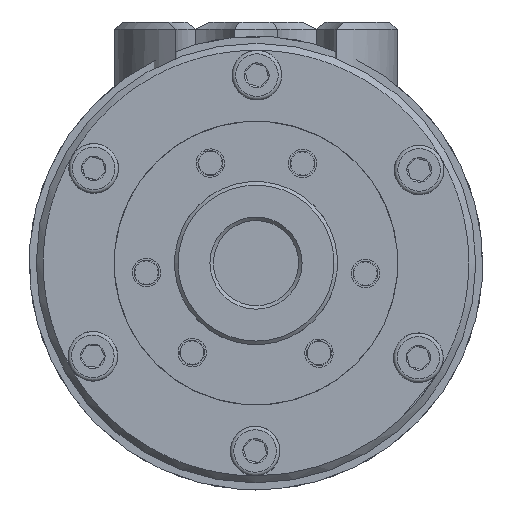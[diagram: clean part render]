
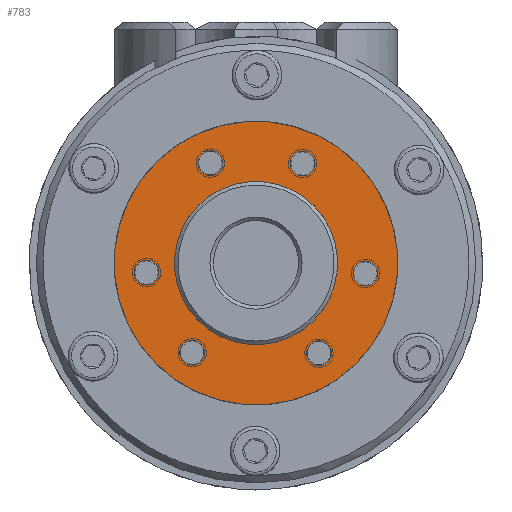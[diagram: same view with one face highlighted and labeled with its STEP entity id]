
A CAD part, left-side view. The second image highlights one B-rep face of the part: STEP entity #783.
In plain terms, the highlighted planar face has unit normal (-1, 0, 0) as drawn and (0, -1, 0) by its records, which use the part's own axes.
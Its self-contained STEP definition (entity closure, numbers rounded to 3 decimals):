
#783 = ADVANCED_FACE( '', ( #1540, #1541, #1542, #1543, #1544, #1545, #1546, #1547 ), #1548, .F. );
#1540 = FACE_OUTER_BOUND( '', #2700, .T. );
#1541 = FACE_BOUND( '', #2701, .T. );
#1542 = FACE_BOUND( '', #2702, .T. );
#1543 = FACE_BOUND( '', #2703, .T. );
#1544 = FACE_BOUND( '', #2704, .T. );
#1545 = FACE_BOUND( '', #2705, .T. );
#1546 = FACE_BOUND( '', #2706, .T. );
#1547 = FACE_BOUND( '', #2707, .T. );
#1548 = PLANE( '', #2708 );
#2700 = EDGE_LOOP( '', ( #4652 ) );
#2701 = EDGE_LOOP( '', ( #4653 ) );
#2702 = EDGE_LOOP( '', ( #4654 ) );
#2703 = EDGE_LOOP( '', ( #4655 ) );
#2704 = EDGE_LOOP( '', ( #4656 ) );
#2705 = EDGE_LOOP( '', ( #4657 ) );
#2706 = EDGE_LOOP( '', ( #4658 ) );
#2707 = EDGE_LOOP( '', ( #4659 ) );
#2708 = AXIS2_PLACEMENT_3D( '', #4660, #4661, #4662 );
#4652 = ORIENTED_EDGE( '', *, *, #7119, .T. );
#4653 = ORIENTED_EDGE( '', *, *, #7129, .F. );
#4654 = ORIENTED_EDGE( '', *, *, #7130, .F. );
#4655 = ORIENTED_EDGE( '', *, *, #7131, .F. );
#4656 = ORIENTED_EDGE( '', *, *, #7132, .F. );
#4657 = ORIENTED_EDGE( '', *, *, #7133, .F. );
#4658 = ORIENTED_EDGE( '', *, *, #7128, .F. );
#4659 = ORIENTED_EDGE( '', *, *, #7127, .F. );
#4660 = CARTESIAN_POINT( '', ( 0., 0., 20. ) );
#4661 = DIRECTION( '', ( 0., 1., 0. ) );
#4662 = DIRECTION( '', ( 1., 0., 0. ) );
#7119 = EDGE_CURVE( '', #8062, #8062, #8063, .T. );
#7127 = EDGE_CURVE( '', #8078, #8078, #8079, .T. );
#7128 = EDGE_CURVE( '', #8080, #8080, #8081, .T. );
#7129 = EDGE_CURVE( '', #8082, #8082, #8083, .T. );
#7130 = EDGE_CURVE( '', #8084, #8084, #8085, .T. );
#7131 = EDGE_CURVE( '', #8086, #8086, #8087, .T. );
#7132 = EDGE_CURVE( '', #8088, #8088, #8089, .T. );
#7133 = EDGE_CURVE( '', #8090, #8090, #8091, .T. );
#8062 = VERTEX_POINT( '', #9786 );
#8063 = CIRCLE( '', #9787, 20. );
#8078 = VERTEX_POINT( '', #9802 );
#8079 = CIRCLE( '', #9803, 11.5 );
#8080 = VERTEX_POINT( '', #9804 );
#8081 = CIRCLE( '', #9805, 1.65 );
#8082 = VERTEX_POINT( '', #9806 );
#8083 = CIRCLE( '', #9807, 1.65 );
#8084 = VERTEX_POINT( '', #9808 );
#8085 = CIRCLE( '', #9809, 1.65 );
#8086 = VERTEX_POINT( '', #9810 );
#8087 = CIRCLE( '', #9811, 1.65 );
#8088 = VERTEX_POINT( '', #9812 );
#8089 = CIRCLE( '', #9813, 1.65 );
#8090 = VERTEX_POINT( '', #9814 );
#8091 = CIRCLE( '', #9815, 1.65 );
#9786 = CARTESIAN_POINT( '', ( 0., 0., -20. ) );
#9787 = AXIS2_PLACEMENT_3D( '', #11969, #11970, #11971 );
#9802 = CARTESIAN_POINT( '', ( 0., 0., -11.5 ) );
#9803 = AXIS2_PLACEMENT_3D( '', #11993, #11994, #11995 );
#9804 = CARTESIAN_POINT( '', ( -13.85, 0., 0. ) );
#9805 = AXIS2_PLACEMENT_3D( '', #11996, #11997, #11998 );
#9806 = CARTESIAN_POINT( '', ( -6.021, 0., -13.174 ) );
#9807 = AXIS2_PLACEMENT_3D( '', #11999, #12000, #12001 );
#9808 = CARTESIAN_POINT( '', ( 6.925, 0., -11.994 ) );
#9809 = AXIS2_PLACEMENT_3D( '', #12002, #12003, #12004 );
#9810 = CARTESIAN_POINT( '', ( 14.42, 0., 1.372 ) );
#9811 = AXIS2_PLACEMENT_3D( '', #12005, #12006, #12007 );
#9812 = CARTESIAN_POINT( '', ( 6.925, 0., 11.994 ) );
#9813 = AXIS2_PLACEMENT_3D( '', #12008, #12009, #12010 );
#9814 = CARTESIAN_POINT( '', ( -8.398, 0., 11.802 ) );
#9815 = AXIS2_PLACEMENT_3D( '', #12011, #12012, #12013 );
#11969 = CARTESIAN_POINT( '', ( 0., 0., 0. ) );
#11970 = DIRECTION( '', ( 0., -1., 0. ) );
#11971 = DIRECTION( '', ( 0., 0., -1. ) );
#11993 = CARTESIAN_POINT( '', ( 0., 0., 0. ) );
#11994 = DIRECTION( '', ( 0., -1., 0. ) );
#11995 = DIRECTION( '', ( 0., 0., -1. ) );
#11996 = CARTESIAN_POINT( '', ( -15.5, 0., 0. ) );
#11997 = DIRECTION( '', ( 0., -1., 0. ) );
#11998 = DIRECTION( '', ( 1., 0., 0. ) );
#11999 = CARTESIAN_POINT( '', ( -5.196, 0., -14.603 ) );
#12000 = DIRECTION( '', ( 0., -1., 0. ) );
#12001 = DIRECTION( '', ( -0.5, 0., 0.866 ) );
#12002 = CARTESIAN_POINT( '', ( 7.75, 0., -13.423 ) );
#12003 = DIRECTION( '', ( 0., -1., 0. ) );
#12004 = DIRECTION( '', ( -0.5, 0., 0.866 ) );
#12005 = CARTESIAN_POINT( '', ( 15.245, 0., 2.801 ) );
#12006 = DIRECTION( '', ( 0., -1., 0. ) );
#12007 = DIRECTION( '', ( -0.5, 0., -0.866 ) );
#12008 = CARTESIAN_POINT( '', ( 7.75, 0., 13.423 ) );
#12009 = DIRECTION( '', ( 0., -1., 0. ) );
#12010 = DIRECTION( '', ( -0.5, 0., -0.866 ) );
#12011 = CARTESIAN_POINT( '', ( -10.048, 0., 11.802 ) );
#12012 = DIRECTION( '', ( 0., -1., 0. ) );
#12013 = DIRECTION( '', ( 1., 0., 0. ) );
